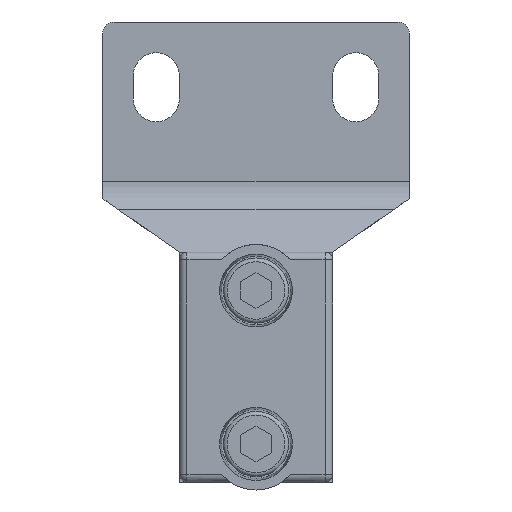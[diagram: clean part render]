
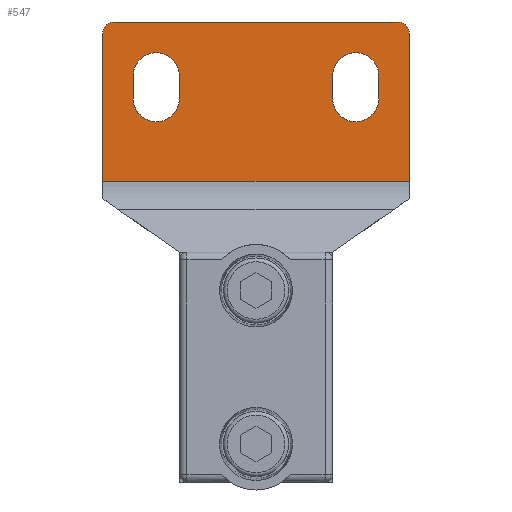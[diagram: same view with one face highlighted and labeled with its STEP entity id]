
A CAD part, front view. The second image highlights one B-rep face of the part: STEP entity #547.
In plain terms, the highlighted planar face has unit normal (0, -1, 0).
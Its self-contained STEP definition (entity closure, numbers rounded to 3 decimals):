
#547 = ADVANCED_FACE( '', ( #1172, #1173, #1174 ), #1175, .F. );
#1172 = FACE_OUTER_BOUND( '', #1854, .T. );
#1173 = FACE_BOUND( '', #1855, .T. );
#1174 = FACE_BOUND( '', #1856, .T. );
#1175 = PLANE( '', #1857 );
#1854 = EDGE_LOOP( '', ( #3305, #3306, #3307, #3308, #3309, #3310 ) );
#1855 = EDGE_LOOP( '', ( #3311, #3312, #3313, #3314 ) );
#1856 = EDGE_LOOP( '', ( #3315, #3316, #3317, #3318 ) );
#1857 = AXIS2_PLACEMENT_3D( '', #3319, #3320, #3321 );
#3305 = ORIENTED_EDGE( '', *, *, #4314, .T. );
#3306 = ORIENTED_EDGE( '', *, *, #4017, .T. );
#3307 = ORIENTED_EDGE( '', *, *, #4315, .T. );
#3308 = ORIENTED_EDGE( '', *, *, #4316, .T. );
#3309 = ORIENTED_EDGE( '', *, *, #4213, .F. );
#3310 = ORIENTED_EDGE( '', *, *, #4317, .T. );
#3311 = ORIENTED_EDGE( '', *, *, #4174, .T. );
#3312 = ORIENTED_EDGE( '', *, *, #4289, .T. );
#3313 = ORIENTED_EDGE( '', *, *, #4099, .T. );
#3314 = ORIENTED_EDGE( '', *, *, #4160, .T. );
#3315 = ORIENTED_EDGE( '', *, *, #3758, .T. );
#3316 = ORIENTED_EDGE( '', *, *, #4318, .T. );
#3317 = ORIENTED_EDGE( '', *, *, #4319, .T. );
#3318 = ORIENTED_EDGE( '', *, *, #4037, .T. );
#3319 = CARTESIAN_POINT( '', ( 20., 15., 60. ) );
#3320 = DIRECTION( '', ( 0., 1., 0. ) );
#3321 = DIRECTION( '', ( 1., 0., 0. ) );
#3758 = EDGE_CURVE( '', #4435, #4433, #4436, .T. );
#4017 = EDGE_CURVE( '', #4858, #4856, #4859, .T. );
#4037 = EDGE_CURVE( '', #4889, #4435, #4890, .T. );
#4099 = EDGE_CURVE( '', #4979, #4977, #4980, .T. );
#4160 = EDGE_CURVE( '', #4977, #5065, #5067, .T. );
#4174 = EDGE_CURVE( '', #5065, #5084, #5086, .T. );
#4213 = EDGE_CURVE( '', #5130, #5132, #5133, .T. );
#4289 = EDGE_CURVE( '', #5084, #4979, #5238, .T. );
#4314 = EDGE_CURVE( '', #5267, #4858, #5268, .T. );
#4315 = EDGE_CURVE( '', #4856, #5269, #5270, .T. );
#4316 = EDGE_CURVE( '', #5269, #5132, #5271, .T. );
#4317 = EDGE_CURVE( '', #5130, #5267, #5272, .T. );
#4318 = EDGE_CURVE( '', #4433, #5273, #5274, .T. );
#4319 = EDGE_CURVE( '', #5273, #4889, #5275, .T. );
#4433 = VERTEX_POINT( '', #5461 );
#4435 = VERTEX_POINT( '', #5464 );
#4436 = LINE( '', #5465, #5466 );
#4856 = VERTEX_POINT( '', #6189 );
#4858 = VERTEX_POINT( '', #6192 );
#4859 = CIRCLE( '', #6193, 1.5 );
#4889 = VERTEX_POINT( '', #6232 );
#4890 = CIRCLE( '', #6233, 3. );
#4977 = VERTEX_POINT( '', #6373 );
#4979 = VERTEX_POINT( '', #6376 );
#4980 = CIRCLE( '', #6377, 3. );
#5065 = VERTEX_POINT( '', #6498 );
#5067 = LINE( '', #6501, #6502 );
#5084 = VERTEX_POINT( '', #6579 );
#5086 = CIRCLE( '', #6582, 3. );
#5130 = VERTEX_POINT( '', #6705 );
#5132 = VERTEX_POINT( '', #6708 );
#5133 = LINE( '', #6709, #6710 );
#5238 = LINE( '', #6859, #6860 );
#5267 = VERTEX_POINT( '', #6901 );
#5268 = LINE( '', #6902, #6903 );
#5269 = VERTEX_POINT( '', #6904 );
#5270 = LINE( '', #6905, #6906 );
#5271 = LINE( '', #6907, #6908 );
#5272 = CIRCLE( '', #6909, 1.5 );
#5273 = VERTEX_POINT( '', #6910 );
#5274 = CIRCLE( '', #6911, 3. );
#5275 = LINE( '', #6912, #6913 );
#5461 = CARTESIAN_POINT( '', ( 10., 15., 53. ) );
#5464 = CARTESIAN_POINT( '', ( 10., 15., 50. ) );
#5465 = CARTESIAN_POINT( '', ( 10., 15., 53. ) );
#5466 = VECTOR( '', #7058, 1000. );
#6189 = CARTESIAN_POINT( '', ( -20., 15., 58.5 ) );
#6192 = CARTESIAN_POINT( '', ( -18.5, 15., 60. ) );
#6193 = AXIS2_PLACEMENT_3D( '', #7348, #7349, #7350 );
#6232 = CARTESIAN_POINT( '', ( 16., 15., 50. ) );
#6233 = AXIS2_PLACEMENT_3D( '', #7378, #7379, #7380 );
#6373 = CARTESIAN_POINT( '', ( -16., 15., 50. ) );
#6376 = CARTESIAN_POINT( '', ( -10., 15., 50. ) );
#6377 = AXIS2_PLACEMENT_3D( '', #7437, #7438, #7439 );
#6498 = CARTESIAN_POINT( '', ( -16., 15., 53. ) );
#6501 = CARTESIAN_POINT( '', ( -16., 15., 53. ) );
#6502 = VECTOR( '', #7501, 1000. );
#6579 = CARTESIAN_POINT( '', ( -10., 15., 53. ) );
#6582 = AXIS2_PLACEMENT_3D( '', #7511, #7512, #7513 );
#6705 = CARTESIAN_POINT( '', ( 20., 15., 58.5 ) );
#6708 = CARTESIAN_POINT( '', ( 20., 15., 39.269 ) );
#6709 = CARTESIAN_POINT( '', ( 20., 15., 60. ) );
#6710 = VECTOR( '', #7547, 1000. );
#6859 = CARTESIAN_POINT( '', ( -10., 15., 53. ) );
#6860 = VECTOR( '', #7619, 1000. );
#6901 = CARTESIAN_POINT( '', ( 18.5, 15., 60. ) );
#6902 = CARTESIAN_POINT( '', ( 20., 15., 60. ) );
#6903 = VECTOR( '', #7635, 1000. );
#6904 = CARTESIAN_POINT( '', ( -20., 15., 39.269 ) );
#6905 = CARTESIAN_POINT( '', ( -20., 15., 60. ) );
#6906 = VECTOR( '', #7636, 1000. );
#6907 = CARTESIAN_POINT( '', ( 20., 15., 39.269 ) );
#6908 = VECTOR( '', #7637, 1000. );
#6909 = AXIS2_PLACEMENT_3D( '', #7638, #7639, #7640 );
#6910 = CARTESIAN_POINT( '', ( 16., 15., 53. ) );
#6911 = AXIS2_PLACEMENT_3D( '', #7641, #7642, #7643 );
#6912 = CARTESIAN_POINT( '', ( 16., 15., 53. ) );
#6913 = VECTOR( '', #7644, 1000. );
#7058 = DIRECTION( '', ( 0., 0., 1. ) );
#7348 = CARTESIAN_POINT( '', ( -18.5, 15., 58.5 ) );
#7349 = DIRECTION( '', ( 0., -1., 0. ) );
#7350 = DIRECTION( '', ( 0., 0., 1. ) );
#7378 = CARTESIAN_POINT( '', ( 13., 15., 50. ) );
#7379 = DIRECTION( '', ( 0., 1., 0. ) );
#7380 = DIRECTION( '', ( 1., 0., 0. ) );
#7437 = CARTESIAN_POINT( '', ( -13., 15., 50. ) );
#7438 = DIRECTION( '', ( 0., 1., 0. ) );
#7439 = DIRECTION( '', ( 1., 0., 0. ) );
#7501 = DIRECTION( '', ( 0., 0., 1. ) );
#7511 = CARTESIAN_POINT( '', ( -13., 15., 53. ) );
#7512 = DIRECTION( '', ( 0., 1., 0. ) );
#7513 = DIRECTION( '', ( -1., 0., 0. ) );
#7547 = DIRECTION( '', ( 0., 0., -1. ) );
#7619 = DIRECTION( '', ( 0., 0., -1. ) );
#7635 = DIRECTION( '', ( -1., 0., 0. ) );
#7636 = DIRECTION( '', ( 0., 0., -1. ) );
#7637 = DIRECTION( '', ( 1., 0., 0. ) );
#7638 = CARTESIAN_POINT( '', ( 18.5, 15., 58.5 ) );
#7639 = DIRECTION( '', ( 0., -1., 0. ) );
#7640 = DIRECTION( '', ( 0., 0., 1. ) );
#7641 = CARTESIAN_POINT( '', ( 13., 15., 53. ) );
#7642 = DIRECTION( '', ( 0., 1., 0. ) );
#7643 = DIRECTION( '', ( -1., 0., 0. ) );
#7644 = DIRECTION( '', ( 0., 0., -1. ) );
